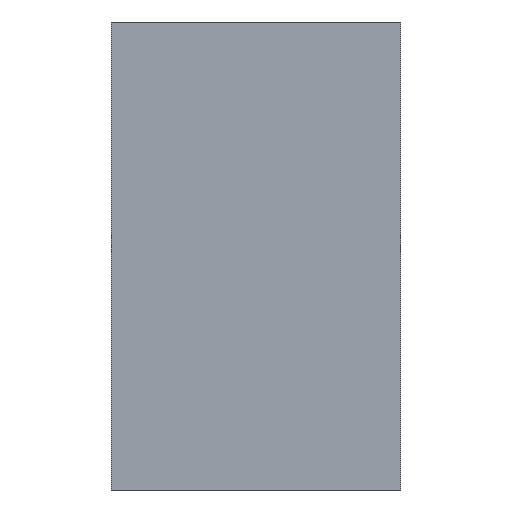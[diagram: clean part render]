
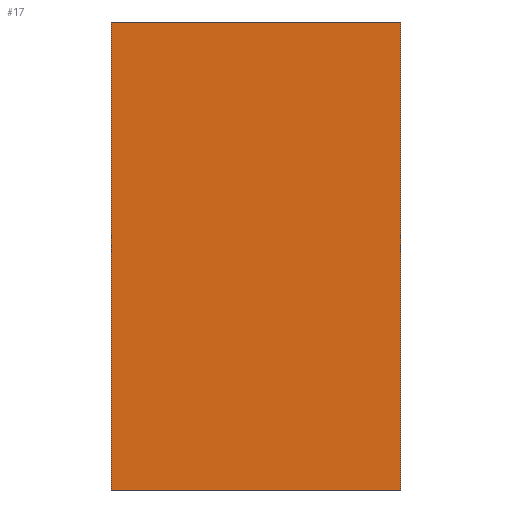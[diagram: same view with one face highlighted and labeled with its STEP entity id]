
A CAD part, left-side view. The second image highlights one B-rep face of the part: STEP entity #17.
In plain terms, the highlighted planar face has unit normal (-1, 0, 0).
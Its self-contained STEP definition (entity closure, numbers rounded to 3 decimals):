
#17 = ADVANCED_FACE('',(#18),#32,.F.);
#18 = FACE_BOUND('',#19,.F.);
#19 = EDGE_LOOP('',(#20,#55,#83,#111));
#20 = ORIENTED_EDGE('',*,*,#21,.F.);
#21 = EDGE_CURVE('',#22,#24,#26,.T.);
#22 = VERTEX_POINT('',#23);
#23 = CARTESIAN_POINT('',(32.,-61.5,48.75));
#24 = VERTEX_POINT('',#25);
#25 = CARTESIAN_POINT('',(32.,-61.5,59.25));
#26 = SURFACE_CURVE('',#27,(#31,#43),.PCURVE_S1.);
#27 = LINE('',#28,#29);
#28 = CARTESIAN_POINT('',(32.,-61.5,48.75));
#29 = VECTOR('',#30,1.);
#30 = DIRECTION('',(0.,0.,1.));
#31 = PCURVE('',#32,#37);
#32 = PLANE('',#33);
#33 = AXIS2_PLACEMENT_3D('',#34,#35,#36);
#34 = CARTESIAN_POINT('',(32.,-61.5,48.75));
#35 = DIRECTION('',(1.,0.,0.));
#36 = DIRECTION('',(0.,0.,1.));
#37 = DEFINITIONAL_REPRESENTATION('',(#38),#42);
#38 = LINE('',#39,#40);
#39 = CARTESIAN_POINT('',(0.,0.));
#40 = VECTOR('',#41,1.);
#41 = DIRECTION('',(1.,0.));
#42 = ( GEOMETRIC_REPRESENTATION_CONTEXT(2) 
PARAMETRIC_REPRESENTATION_CONTEXT() REPRESENTATION_CONTEXT('2D SPACE',''
  ) );
#43 = PCURVE('',#44,#49);
#44 = PLANE('',#45);
#45 = AXIS2_PLACEMENT_3D('',#46,#47,#48);
#46 = CARTESIAN_POINT('',(32.,-61.5,48.75));
#47 = DIRECTION('',(0.,1.,0.));
#48 = DIRECTION('',(0.,0.,1.));
#49 = DEFINITIONAL_REPRESENTATION('',(#50),#54);
#50 = LINE('',#51,#52);
#51 = CARTESIAN_POINT('',(0.,0.));
#52 = VECTOR('',#53,1.);
#53 = DIRECTION('',(1.,0.));
#54 = ( GEOMETRIC_REPRESENTATION_CONTEXT(2) 
PARAMETRIC_REPRESENTATION_CONTEXT() REPRESENTATION_CONTEXT('2D SPACE',''
  ) );
#55 = ORIENTED_EDGE('',*,*,#56,.T.);
#56 = EDGE_CURVE('',#22,#57,#59,.T.);
#57 = VERTEX_POINT('',#58);
#58 = CARTESIAN_POINT('',(32.,-55.,48.75));
#59 = SURFACE_CURVE('',#60,(#64,#71),.PCURVE_S1.);
#60 = LINE('',#61,#62);
#61 = CARTESIAN_POINT('',(32.,-61.5,48.75));
#62 = VECTOR('',#63,1.);
#63 = DIRECTION('',(0.,1.,0.));
#64 = PCURVE('',#32,#65);
#65 = DEFINITIONAL_REPRESENTATION('',(#66),#70);
#66 = LINE('',#67,#68);
#67 = CARTESIAN_POINT('',(0.,0.));
#68 = VECTOR('',#69,1.);
#69 = DIRECTION('',(0.,-1.));
#70 = ( GEOMETRIC_REPRESENTATION_CONTEXT(2) 
PARAMETRIC_REPRESENTATION_CONTEXT() REPRESENTATION_CONTEXT('2D SPACE',''
  ) );
#71 = PCURVE('',#72,#77);
#72 = PLANE('',#73);
#73 = AXIS2_PLACEMENT_3D('',#74,#75,#76);
#74 = CARTESIAN_POINT('',(32.,-61.5,48.75));
#75 = DIRECTION('',(0.,0.,1.));
#76 = DIRECTION('',(1.,0.,0.));
#77 = DEFINITIONAL_REPRESENTATION('',(#78),#82);
#78 = LINE('',#79,#80);
#79 = CARTESIAN_POINT('',(0.,0.));
#80 = VECTOR('',#81,1.);
#81 = DIRECTION('',(0.,1.));
#82 = ( GEOMETRIC_REPRESENTATION_CONTEXT(2) 
PARAMETRIC_REPRESENTATION_CONTEXT() REPRESENTATION_CONTEXT('2D SPACE',''
  ) );
#83 = ORIENTED_EDGE('',*,*,#84,.T.);
#84 = EDGE_CURVE('',#57,#85,#87,.T.);
#85 = VERTEX_POINT('',#86);
#86 = CARTESIAN_POINT('',(32.,-55.,59.25));
#87 = SURFACE_CURVE('',#88,(#92,#99),.PCURVE_S1.);
#88 = LINE('',#89,#90);
#89 = CARTESIAN_POINT('',(32.,-55.,48.75));
#90 = VECTOR('',#91,1.);
#91 = DIRECTION('',(0.,0.,1.));
#92 = PCURVE('',#32,#93);
#93 = DEFINITIONAL_REPRESENTATION('',(#94),#98);
#94 = LINE('',#95,#96);
#95 = CARTESIAN_POINT('',(0.,-6.5));
#96 = VECTOR('',#97,1.);
#97 = DIRECTION('',(1.,0.));
#98 = ( GEOMETRIC_REPRESENTATION_CONTEXT(2) 
PARAMETRIC_REPRESENTATION_CONTEXT() REPRESENTATION_CONTEXT('2D SPACE',''
  ) );
#99 = PCURVE('',#100,#105);
#100 = PLANE('',#101);
#101 = AXIS2_PLACEMENT_3D('',#102,#103,#104);
#102 = CARTESIAN_POINT('',(32.,-55.,48.75));
#103 = DIRECTION('',(0.,1.,0.));
#104 = DIRECTION('',(0.,0.,1.));
#105 = DEFINITIONAL_REPRESENTATION('',(#106),#110);
#106 = LINE('',#107,#108);
#107 = CARTESIAN_POINT('',(0.,0.));
#108 = VECTOR('',#109,1.);
#109 = DIRECTION('',(1.,0.));
#110 = ( GEOMETRIC_REPRESENTATION_CONTEXT(2) 
PARAMETRIC_REPRESENTATION_CONTEXT() REPRESENTATION_CONTEXT('2D SPACE',''
  ) );
#111 = ORIENTED_EDGE('',*,*,#112,.F.);
#112 = EDGE_CURVE('',#24,#85,#113,.T.);
#113 = SURFACE_CURVE('',#114,(#118,#125),.PCURVE_S1.);
#114 = LINE('',#115,#116);
#115 = CARTESIAN_POINT('',(32.,-61.5,59.25));
#116 = VECTOR('',#117,1.);
#117 = DIRECTION('',(0.,1.,0.));
#118 = PCURVE('',#32,#119);
#119 = DEFINITIONAL_REPRESENTATION('',(#120),#124);
#120 = LINE('',#121,#122);
#121 = CARTESIAN_POINT('',(10.5,0.));
#122 = VECTOR('',#123,1.);
#123 = DIRECTION('',(0.,-1.));
#124 = ( GEOMETRIC_REPRESENTATION_CONTEXT(2) 
PARAMETRIC_REPRESENTATION_CONTEXT() REPRESENTATION_CONTEXT('2D SPACE',''
  ) );
#125 = PCURVE('',#126,#131);
#126 = PLANE('',#127);
#127 = AXIS2_PLACEMENT_3D('',#128,#129,#130);
#128 = CARTESIAN_POINT('',(32.,-61.5,59.25));
#129 = DIRECTION('',(0.,0.,1.));
#130 = DIRECTION('',(1.,0.,0.));
#131 = DEFINITIONAL_REPRESENTATION('',(#132),#136);
#132 = LINE('',#133,#134);
#133 = CARTESIAN_POINT('',(0.,0.));
#134 = VECTOR('',#135,1.);
#135 = DIRECTION('',(0.,1.));
#136 = ( GEOMETRIC_REPRESENTATION_CONTEXT(2) 
PARAMETRIC_REPRESENTATION_CONTEXT() REPRESENTATION_CONTEXT('2D SPACE',''
  ) );
